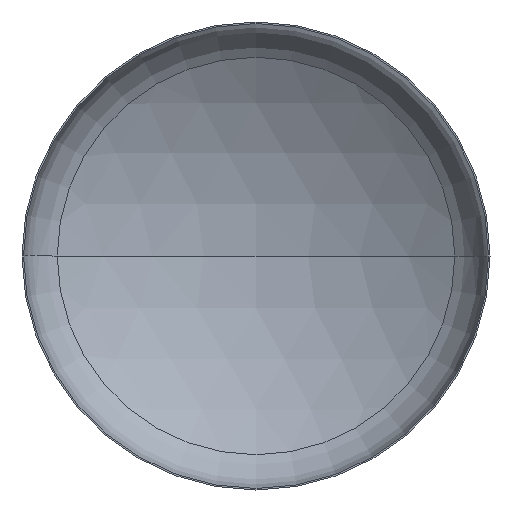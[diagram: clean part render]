
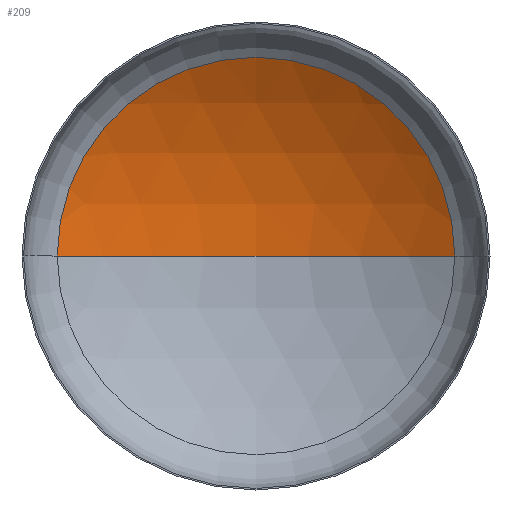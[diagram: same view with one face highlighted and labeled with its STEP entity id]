
A CAD part, front view. The second image highlights one B-rep face of the part: STEP entity #209.
In plain terms, the highlighted spherical face has radius 6400 mm.
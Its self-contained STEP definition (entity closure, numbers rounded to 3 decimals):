
#35 = VERTEX_POINT ( 'NONE', #198 ) ;
#57 = ORIENTED_EDGE ( 'NONE', *, *, #191, .T. ) ;
#67 = VERTEX_POINT ( 'NONE', #183 ) ;
#69 = VERTEX_POINT ( 'NONE', #296 ) ;
#83 = EDGE_LOOP ( 'NONE', ( #125, #397, #57 ) ) ;
#121 = CIRCLE ( 'NONE', #157, 6400. ) ;
#125 = ORIENTED_EDGE ( 'NONE', *, *, #292, .F. ) ;
#142 = DIRECTION ( 'NONE',  ( 1., 0., 0. ) ) ;
#147 = DIRECTION ( 'NONE',  ( -1., 0., 0. ) ) ;
#157 = AXIS2_PLACEMENT_3D ( 'NONE', #247, #373, #225 ) ;
#159 = CARTESIAN_POINT ( 'NONE',  ( 0., 1127.457, 0. ) ) ;
#160 = DIRECTION ( 'NONE',  ( 0., -1., 0. ) ) ;
#161 = DIRECTION ( 'NONE',  ( 0., 0., -1. ) ) ;
#183 = CARTESIAN_POINT ( 'NONE',  ( -3396.828, 1127.457, 0. ) ) ;
#185 = AXIS2_PLACEMENT_3D ( 'NONE', #159, #160, #142 ) ;
#191 = EDGE_CURVE ( 'NONE', #69, #67, #363, .T. ) ;
#198 = CARTESIAN_POINT ( 'NONE',  ( 0., 2103.292, 0. ) ) ;
#209 = ADVANCED_FACE ( 'NONE', ( #295 ), #232, .F. ) ;
#225 = DIRECTION ( 'NONE',  ( -1., 0., 0. ) ) ;
#232 = SPHERICAL_SURFACE ( 'NONE', #236, 6400. ) ;
#236 = AXIS2_PLACEMENT_3D ( 'NONE', #267, #161, #147 ) ;
#247 = CARTESIAN_POINT ( 'NONE',  ( 0., -4296.708, 0. ) ) ;
#267 = CARTESIAN_POINT ( 'NONE',  ( 0., -4296.708, 0. ) ) ;
#292 = EDGE_CURVE ( 'NONE', #35, #67, #406, .T. ) ;
#295 = FACE_OUTER_BOUND ( 'NONE', #83, .T. ) ;
#296 = CARTESIAN_POINT ( 'NONE',  ( 3396.828, 1127.457, 0. ) ) ;
#349 = EDGE_CURVE ( 'NONE', #35, #69, #121, .T. ) ;
#357 = AXIS2_PLACEMENT_3D ( 'NONE', #365, #371, #369 ) ;
#363 = CIRCLE ( 'NONE', #185, 3396.828 ) ;
#365 = CARTESIAN_POINT ( 'NONE',  ( 0., -4296.708, 0. ) ) ;
#369 = DIRECTION ( 'NONE',  ( 1., 0., 0. ) ) ;
#371 = DIRECTION ( 'NONE',  ( 0., 0., 1. ) ) ;
#373 = DIRECTION ( 'NONE',  ( 0., 0., -1. ) ) ;
#397 = ORIENTED_EDGE ( 'NONE', *, *, #349, .T. ) ;
#406 = CIRCLE ( 'NONE', #357, 6400. ) ;
